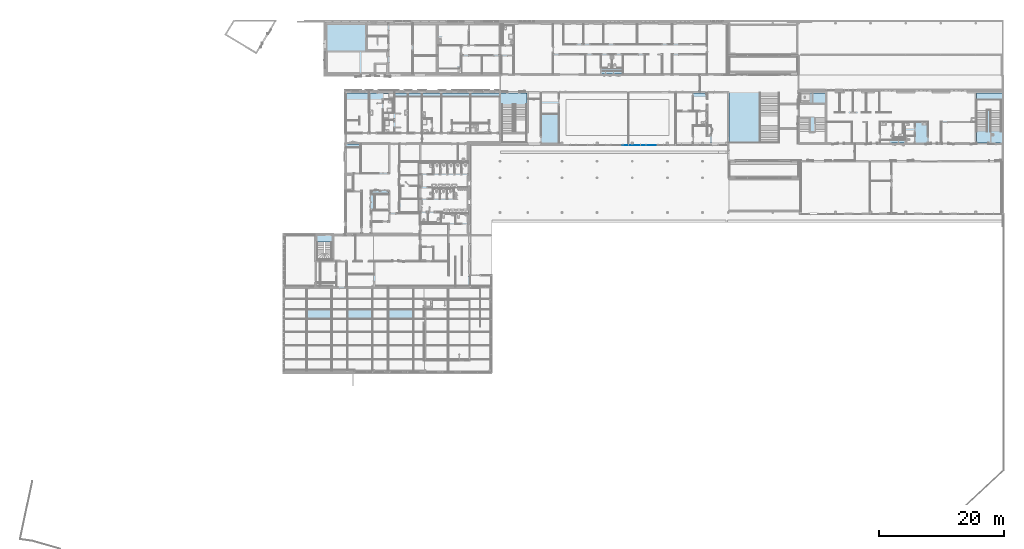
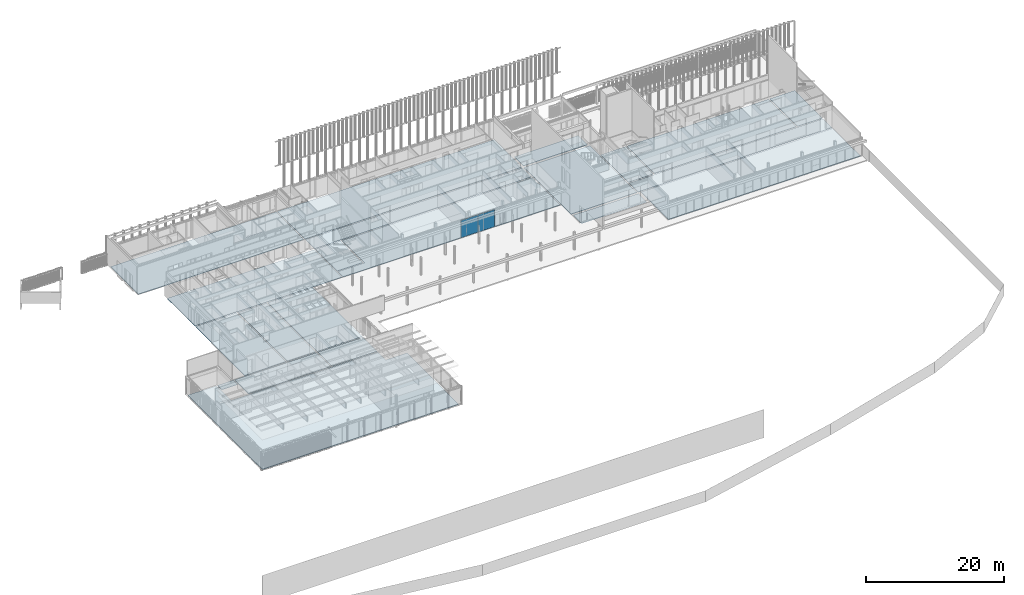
# One storey, part 65 of 240: 2 plates, 1 slab, 1 element without a shape of its own.
"""IFC2X3 building model written with IfcOpenShell, lengths in centimetres."""

import ifcopenshell
import ifcopenshell.guid

model = None  # the IFC model being written
_history = None  # IfcOwnerHistory: only IFC2X3 demands one
_inside = {}  # id of a spatial element -> (the spatial element, [elements in it])
_under = {}  # id of a project, library or spatial element -> (it, [spatial elements below it])
_declared = {}  # id of a project -> (the project, [libraries it declares])
_typed = {}  # id of a type object -> (the type object, [elements of that type])
_made_of = {}  # id of a material, layer set ... -> (it, [elements and type objects made of it])


def new_model(schema):
    """Start an empty IFC model of exactly this schema.

    Asked for "IFC4X3", IfcOpenShell would pick the latest addendum, in which some entities
    have other attributes; the version numbers below select the first issue.
    IFC2X3 requires an IfcOwnerHistory on every rooted entity: one is made here for all.
    """
    global model, _history
    if schema == "IFC4X3":
        model = ifcopenshell.file(schema_version=(4, 3, 0, 0))
    else:
        model = ifcopenshell.file(schema=schema)
    _inside.clear()
    _under.clear()
    _declared.clear()
    _typed.clear()
    _made_of.clear()
    _history = None
    if model.schema == "IFC2X3":
        org = make("IfcOrganization", Name="unknown")
        user = make(
            "IfcPersonAndOrganization",
            ThePerson=make("IfcPerson", FamilyName="unknown"),
            TheOrganization=org,
        )
        app = make(
            "IfcApplication",
            ApplicationDeveloper=org,
            Version="unknown",
            ApplicationFullName="unknown",
            ApplicationIdentifier="unknown",
        )
        _history = make(
            "IfcOwnerHistory",
            OwningUser=user,
            OwningApplication=app,
            ChangeAction="ADDED",
            CreationDate=0,
        )
    return model


def make(cls, **values):
    """One entity of the class cls with the attributes given. An attribute that is None is left unset."""
    return model.create_entity(
        cls, **{name: value for name, value in values.items() if value is not None}
    )


def entity(cls, *values):
    """Any entity or typed value of the class cls, its attributes in the order of the schema. None: left unset."""
    e = model.create_entity(cls)
    for i, value in enumerate(values):
        if value is not None:
            e[i] = value
    return e


def rooted(cls, **values):
    """An entity with a GlobalId (a new one), such as an element, a storey or a relation."""
    return make(cls, GlobalId=ifcopenshell.guid.new(), OwnerHistory=_history, **values)


def si_unit(unit_type, name, prefix=None):
    """IfcSIUnit, for example si_unit("LENGTHUNIT", "METRE", prefix="MILLI")."""
    return make("IfcSIUnit", UnitType=unit_type, Prefix=prefix, Name=name)


def converted_unit(unit_type, name, factor, base, dimensions=None, offset=None):
    """IfcConversionBasedUnit, such as the inch: factor (a typed value) times the base unit."""
    return make(
        "IfcConversionBasedUnit"
        if offset is None
        else "IfcConversionBasedUnitWithOffset",
        ConversionOffset=offset,
        Dimensions=None
        if dimensions is None
        else entity("IfcDimensionalExponents", *dimensions),
        UnitType=unit_type,
        Name=name,
        ConversionFactor=make(
            "IfcMeasureWithUnit", ValueComponent=factor, UnitComponent=base
        ),
    )


def derived_unit(unit_type, elements):
    """IfcDerivedUnit: a product of units, each with its exponent."""
    return make(
        "IfcDerivedUnit",
        Elements=[
            make("IfcDerivedUnitElement", Unit=unit, Exponent=power)
            for unit, power in elements
        ],
        UnitType=unit_type,
    )


def assignment(units):
    """IfcUnitAssignment: the units of a project."""
    return None if units is None else make("IfcUnitAssignment", Units=units)


def point(xyz):
    """IfcCartesianPoint."""
    return None if xyz is None else make("IfcCartesianPoint", Coordinates=xyz)


def direction(xyz):
    """IfcDirection."""
    return None if xyz is None else make("IfcDirection", DirectionRatios=xyz)


def frame(location, z_axis=None, x_axis=None):
    """IfcAxis2Placement3D, a coordinate frame: its origin and axes. An axis left out is left unset."""
    return make(
        "IfcAxis2Placement3D",
        Location=point(location),
        Axis=direction(z_axis),
        RefDirection=direction(x_axis),
    )


def frame_2d(location, x_axis=None):
    """IfcAxis2Placement2D, a coordinate frame in the plane: its origin and x axis."""
    return make(
        "IfcAxis2Placement2D", Location=point(location), RefDirection=direction(x_axis)
    )


def origin():
    """The frame at (0, 0, 0) with its axes left unset."""
    return frame((0.0, 0.0, 0.0))


def origin_2d_with_axis():
    """The frame at (0, 0) in the plane with the x axis (1, 0) written out."""
    return frame_2d((0.0, 0.0), x_axis=(1.0, 0.0))


def place(relative_to, where):
    """IfcLocalPlacement: puts the frame where relative to a parent placement (None: the world)."""
    return make(
        "IfcLocalPlacement", PlacementRelTo=relative_to, RelativePlacement=where
    )


def context(
    kind, dimensions, precision=None, world=None, true_north=None, identifier=None
):
    """IfcGeometricRepresentationContext, for example the 3D "Model" context."""
    return make(
        "IfcGeometricRepresentationContext",
        ContextIdentifier=identifier,
        ContextType=kind,
        CoordinateSpaceDimension=dimensions,
        Precision=precision,
        WorldCoordinateSystem=world,
        TrueNorth=true_north,
    )


def subcontext(parent, identifier, kind, view, scale=None):
    """IfcGeometricRepresentationSubContext, for example "Body" below "Model"."""
    return make(
        "IfcGeometricRepresentationSubContext",
        ContextIdentifier=identifier,
        ContextType=kind,
        ParentContext=parent,
        TargetScale=scale,
        TargetView=view,
    )


def project(units=None, contexts=None):
    """IfcProject with its units and contexts."""
    return rooted(
        "IfcProject",
        Name="project",
        RepresentationContexts=contexts,
        UnitsInContext=assignment(units),
    )


def spatial(cls, under=None, at=None, **own):
    """A site, building, storey or space (cls), placed at a placement, below another one or the project."""
    s = rooted(cls, ObjectPlacement=at, **own)
    if under is not None:
        _under.setdefault(under.id(), (under, []))[1].append(s)
    return s


def polyline(points):
    """IfcPolyline through the points."""
    return make("IfcPolyline", Points=[point(p) for p in points])


def profile(cls, at=None, kind="AREA", **sizes):
    """A parametric profile (cls). Its sizes go by their IFC names, for example OverallWidth=200.0."""
    return make(cls, ProfileType=kind, Position=at, **sizes)


def rectangle(**sizes):
    """IfcRectangleProfileDef."""
    return profile("IfcRectangleProfileDef", **sizes)


def outline(outer, holes=None, kind="AREA"):
    """IfcArbitraryClosedProfileDef: a profile drawn as a closed curve; with holes, ...WithVoids."""
    if holes is None:
        return make("IfcArbitraryClosedProfileDef", ProfileType=kind, OuterCurve=outer)
    return make(
        "IfcArbitraryProfileDefWithVoids",
        ProfileType=kind,
        OuterCurve=outer,
        InnerCurves=holes,
    )


def extrude(swept, where, along, depth):
    """IfcExtrudedAreaSolid: the profile swept, set in the frame where, extruded along a direction by depth."""
    return make(
        "IfcExtrudedAreaSolid",
        SweptArea=swept,
        Position=where,
        ExtrudedDirection=direction(along),
        Depth=depth,
    )


def faces_of(points, faces, orient=None, outer=None):
    """IfcFace entities. A face is a list of loops; a loop is a list of indices into points, from 0.

    orient and outer hold one flag for each loop. By default every Orientation is true, the
    first loop of a face is its IfcFaceOuterBound and the others are IfcFaceBound.
    """
    made = []
    for i, loops in enumerate(faces):
        bounds = []
        for j, loop in enumerate(loops):
            is_outer = j == 0 if outer is None else outer[i][j]
            bounds.append(
                make(
                    "IfcFaceOuterBound" if is_outer else "IfcFaceBound",
                    Bound=make("IfcPolyLoop", Polygon=[points[k] for k in loop]),
                    Orientation=True if orient is None else orient[i][j],
                )
            )
        made.append(make("IfcFace", Bounds=bounds))
    return made


def faceted_brep(points, faces, orient=None, outer=None, voids=None):
    """IfcFacetedBrep: a solid bounded by flat faces; with voids (closed shells), ...WithVoids."""
    shared = [point(p) for p in points]
    hull = make("IfcClosedShell", CfsFaces=faces_of(shared, faces, orient, outer))
    if voids is None:
        return make("IfcFacetedBrep", Outer=hull)
    return make(
        "IfcFacetedBrepWithVoids",
        Outer=hull,
        Voids=[
            make(cls, CfsFaces=faces_of(shared, fs, o, b)) for cls, fs, o, b in voids
        ],
    )


def shape(context_of_items, identifier, shape_type, items):
    """IfcShapeRepresentation: the items that make up one representation, for example the "Body"."""
    return make(
        "IfcShapeRepresentation",
        ContextOfItems=context_of_items,
        RepresentationIdentifier=identifier,
        RepresentationType=shape_type,
        Items=items,
    )


def source(mapping_origin, context_of_items, identifier, shape_type, items):
    """IfcRepresentationMap: a shape defined once, which mapped items show again and again."""
    return make(
        "IfcRepresentationMap",
        MappingOrigin=mapping_origin,
        MappedRepresentation=shape(context_of_items, identifier, shape_type, items),
    )


def transform(
    local_origin,
    x_axis=None,
    y_axis=None,
    z_axis=None,
    scale=None,
    scale2=None,
    scale3=None,
    uniform=True,
):
    """IfcCartesianTransformationOperator3D, or its non-uniform kind. x_axis, y_axis, z_axis: its Axis1, 2, 3."""
    if uniform:
        return make(
            "IfcCartesianTransformationOperator3D",
            Axis1=direction(x_axis),
            Axis2=direction(y_axis),
            LocalOrigin=point(local_origin),
            Scale=scale,
            Axis3=direction(z_axis),
        )
    return make(
        "IfcCartesianTransformationOperator3DnonUniform",
        Axis1=direction(x_axis),
        Axis2=direction(y_axis),
        LocalOrigin=point(local_origin),
        Scale=scale,
        Axis3=direction(z_axis),
        Scale2=scale2,
        Scale3=scale3,
    )


def mapped(mapping_source, mapping_target):
    """IfcMappedItem: shows the shape of a source again, moved by a transform."""
    return make(
        "IfcMappedItem", MappingSource=mapping_source, MappingTarget=mapping_target
    )


def material(Name=None, Category=None):
    """IfcMaterial."""
    return make("IfcMaterial", Name=Name, Category=Category)


def layer(
    of_material, thickness, ventilated=None, Name=None, Category=None, Priority=None
):
    """IfcMaterialLayer: one layer of a wall or slab, of a material (None: an air gap)."""
    return make(
        "IfcMaterialLayer",
        Material=of_material,
        LayerThickness=thickness,
        IsVentilated=ventilated,
        Name=Name,
        Category=Category,
        Priority=Priority,
    )


def layer_set(layers, Name=None):
    """IfcMaterialLayerSet."""
    return make("IfcMaterialLayerSet", MaterialLayers=layers, LayerSetName=Name)


def layer_usage(for_layer_set, set_direction, sense, offset, extent=None):
    """IfcMaterialLayerSetUsage: how a layer set lies in its element."""
    return make(
        "IfcMaterialLayerSetUsage",
        ForLayerSet=for_layer_set,
        LayerSetDirection=set_direction,
        DirectionSense=sense,
        OffsetFromReferenceLine=offset,
        ReferenceExtent=extent,
    )


def made_of(thing, what):
    """Note that an element or type object is made of a material, layer set ...; save() writes the relation."""
    if what is not None:
        _made_of.setdefault(what.id(), (what, []))[1].append(thing)
    return thing


def type_object(cls, material=None, **own):
    """A type object (cls), such as IfcWallType, which elements share."""
    return made_of(rooted(cls, **own), material)


def type_shapes(of_type, sources):
    """Give a type object the sources (RepresentationMaps) that its elements show as mapped items."""
    of_type.RepresentationMaps = sources


def element(
    cls,
    number,
    at=None,
    inside=None,
    cuts=None,
    type_object=None,
    material=None,
    context=None,
    identifier="Body",
    shape_type=None,
    held_by="IfcProductDefinitionShape",
    body=None,
    shapes=None,
    **own,
):
    """One element of the class cls, such as IfcWall. Its Tag is "e" and its number.

    at: its placement. inside: the storey or other place that contains it. cuts: it is an
    opening in that element (IfcRelVoidsElement). A single representation is given by context,
    identifier, shape_type and body (its items); several are given by shapes. held_by: the class
    of the entity that holds the representations. save() writes the other relations.
    """
    e = rooted(cls, Tag="e%d" % number, ObjectPlacement=at, **own)
    if body is not None:
        shapes = [shape(context, identifier, shape_type, body)]
    if shapes is not None:
        e.Representation = make(held_by, Representations=shapes)
    if inside is not None:
        _inside.setdefault(inside.id(), (inside, []))[1].append(e)
    if cuts is not None:
        rooted(
            "IfcRelVoidsElement", RelatingBuildingElement=cuts, RelatedOpeningElement=e
        )
    if type_object is not None:
        _typed.setdefault(type_object.id(), (type_object, []))[1].append(e)
    return made_of(e, material)


def aggregate(whole, parts):
    """IfcRelAggregates: a whole, such as a stair, and the parts it consists of."""
    return rooted("IfcRelAggregates", RelatingObject=whole, RelatedObjects=parts)


def save(model, path):
    """Write the relations noted so far, then the file.

    IfcRelAggregates (storeys below a building ...), IfcRelContainedInSpatialStructure (elements
    in a storey), IfcRelDefinesByType, IfcRelAssociatesMaterial and IfcRelDeclares: one each for
    every whole, place, type object, material and project.
    """
    for whole, parts in _under.values():
        aggregate(whole, parts)
    for where, things in _inside.values():
        rooted(
            "IfcRelContainedInSpatialStructure",
            RelatedElements=things,
            RelatingStructure=where,
        )
    for kind, things in _typed.values():
        rooted("IfcRelDefinesByType", RelatedObjects=things, RelatingType=kind)
    for what, things in _made_of.values():
        rooted("IfcRelAssociatesMaterial", RelatedObjects=things, RelatingMaterial=what)
    for by, libraries in _declared.values():
        rooted("IfcRelDeclares", RelatingContext=by, RelatedDefinitions=libraries)
    model.write(path)


model = new_model("IFC2X3")

# Units and contexts
model_context = context("Model", 3, precision=0.001, world=origin(), true_north=direction((6.12303176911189e-17, 1.0)))
body_context = subcontext(model_context, "Body", "Model", "MODEL_VIEW")
ifc_project = project(units=[si_unit("LENGTHUNIT", "METRE", prefix="CENTI"), si_unit("AREAUNIT", "SQUARE_METRE"), si_unit("VOLUMEUNIT", "CUBIC_METRE"), converted_unit("PLANEANGLEUNIT", "DEGREE", entity("IfcRatioMeasure", 0.0174532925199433), si_unit("PLANEANGLEUNIT", "RADIAN"), dimensions=[0, 0, 0, 0, 0, 0, 0]), si_unit("MASSUNIT", "GRAM", prefix="KILO"), derived_unit("MASSDENSITYUNIT", [(si_unit("MASSUNIT", "GRAM", prefix="KILO"), 1), (si_unit("LENGTHUNIT", "METRE"), -3)]), si_unit("TIMEUNIT", "SECOND"), si_unit("FREQUENCYUNIT", "HERTZ"), si_unit("THERMODYNAMICTEMPERATUREUNIT", "DEGREE_CELSIUS"), derived_unit("THERMALTRANSMITTANCEUNIT", [(si_unit("MASSUNIT", "GRAM", prefix="KILO"), 1), (si_unit("THERMODYNAMICTEMPERATUREUNIT", "KELVIN"), -1), (si_unit("TIMEUNIT", "SECOND"), -3)]), derived_unit("VOLUMETRICFLOWRATEUNIT", [(si_unit("LENGTHUNIT", "METRE"), 3), (si_unit("TIMEUNIT", "SECOND"), -1)]), si_unit("ELECTRICCURRENTUNIT", "AMPERE"), si_unit("ELECTRICVOLTAGEUNIT", "VOLT"), si_unit("POWERUNIT", "WATT"), si_unit("FORCEUNIT", "NEWTON", prefix="KILO"), si_unit("ILLUMINANCEUNIT", "LUX"), si_unit("LUMINOUSFLUXUNIT", "LUMEN"), si_unit("LUMINOUSINTENSITYUNIT", "CANDELA"), derived_unit("USERDEFINED", [(si_unit("MASSUNIT", "GRAM", prefix="KILO"), -1), (si_unit("LENGTHUNIT", "METRE"), -2), (si_unit("TIMEUNIT", "SECOND"), 3), (si_unit("LUMINOUSFLUXUNIT", "LUMEN"), 1)]), derived_unit("LINEARVELOCITYUNIT", [(si_unit("LENGTHUNIT", "METRE"), 1), (si_unit("TIMEUNIT", "SECOND"), -1)]), si_unit("PRESSUREUNIT", "PASCAL"), derived_unit("USERDEFINED", [(si_unit("LENGTHUNIT", "METRE"), -2), (si_unit("MASSUNIT", "GRAM", prefix="KILO"), 1), (si_unit("TIMEUNIT", "SECOND"), -2)])], contexts=[model_context])

# Site, building, storey
site_placement = place(None, frame((-2781.94577612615, 7442.24238424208, 0.0)))
site = spatial("IfcSite", under=ifc_project, at=site_placement, Name="Default", CompositionType="ELEMENT")
building_placement = place(site_placement, origin())
building = spatial("IfcBuilding", under=site, at=building_placement, CompositionType="ELEMENT")
storey_placement = place(building_placement, origin())
storey = spatial("IfcBuildingStorey", under=building, at=storey_placement, Name="N00 - COO", CompositionType="ELEMENT", Elevation=0.0)

# Slab
ifc_material_1 = material(Name="00 - Isolant")
ifc_layer_1 = layer(ifc_material_1, 9.0)
ifc_layer_set_1 = layer_set([ifc_layer_1], Name="Sol:SR- 02 - Isolation sur terre plein sous chape - 9cm")
ifc_layer_usage = layer_usage(ifc_layer_set_1, "AXIS3", "POSITIVE", 0.0)
slab_type = type_object("IfcSlabType", Name="Sol:SR- 02 - Isolation sur terre plein sous chape - 9cm", PredefinedType="FLOOR", material=ifc_layer_set_1)
slab_placement = place(building_placement, origin())
element("IfcSlab", 1, at=slab_placement, inside=storey, type_object=slab_type, material=ifc_layer_usage, Name="Sol:SR- 02 - Isolation sur terre plein sous chape - 9cm", ObjectType="Sol:SR- 02 - Isolation sur terre plein sous chape - 9cm", PredefinedType="FLOOR", context=body_context, shape_type="SweptSolid", body=[
    extrude(rectangle(XDim=262.499999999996, YDim=1066.69999791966, at=frame_2d((0.0, -1.70530256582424e-13), x_axis=(1.0, 0.0))), frame((-4216.64987864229, -658.79850098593, -35.0), z_axis=(0.0, 0.0, 1.0), x_axis=(0.0, 1.0, 0.0)), (0.0, 0.0, 1.0), 9.0),
    extrude(outline(polyline([(-1456.69153090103, 514.843664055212), (-1456.69153090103, -976.579036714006), (-420.691530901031, -976.579036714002), (-400.69153090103, -976.579036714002), (-382.691530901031, -976.579036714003), (1820.67166282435, -976.579036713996), (1820.67166282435, 1177.40089118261), (1341.80389617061, 1177.40089118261), (1341.80389617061, 749.203036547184), (-1103.74673174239, 749.203036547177), (-1103.74673174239, 514.843664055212), (-1456.69153090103, 514.843664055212)])), frame((-10025.6789117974, -4549.9226976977, -35.0), z_axis=(0.0, 0.0, -1.0), x_axis=(-1.0, 0.0, 0.0)), (0.0, 0.0, -1.0), 9.0),
    extrude(rectangle(XDim=800.079033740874, YDim=415.3, at=frame_2d((-1.13686837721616e-13, 63.2166666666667), x_axis=(1.0, 0.0))), frame((-554.433216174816, -1510.03951677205, -35.0), z_axis=(0.0, 0.0, 1.0), x_axis=(0.0, 1.0, 0.0)), (0.0, 0.0, 1.0), 9.0),
    extrude(rectangle(XDim=800.156932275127, YDim=3201.49999684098, at=frame_2d((6.25277607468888e-13, 527.583332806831), x_axis=(1.0, 0.0))), frame((-1483.16654845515, -2610.23503345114, -35.0), z_axis=(0.0, 0.0, 1.0), x_axis=(0.0, 1.0, 0.0)), (0.0, 0.0, 1.0), 9.0),
    extrude(rectangle(XDim=1099.99999791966, YDim=1358.10806632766, at=frame_2d((59.1111109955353, -73.8948925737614), x_axis=(1.0, 0.0))), frame((-4277.11098963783, -1437.20764157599, -35.0)), (0.0, 0.0, 1.0), 9.0),
    extrude(outline(polyline([(-1354.8333333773, -316.693011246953), (2266.66666668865, -316.693011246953), (2266.66666668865, 483.386022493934), (-911.833333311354, 483.386022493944), (-911.833333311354, -166.693011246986), (-1354.8333333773, -166.693011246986), (-1354.8333333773, -316.693011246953)])), frame((-7054.66654429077, -1593.38602239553, -35.0)), (0.0, 0.0, 1.0), 9.0),
    extrude(rectangle(XDim=1422.44277287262, YDim=755.067816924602, at=origin_2d_with_axis()), frame((-9299.4660885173, -2641.30042007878, -35.0), z_axis=(0.0, 0.0, 1.0), x_axis=(0.0, 1.0, 0.0)), (0.0, 0.0, 1.0), 9.0),
    extrude(rectangle(XDim=1422.44277287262, YDim=686.778497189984, at=frame_2d((141.982277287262, 68.6778497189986), x_axis=(1.0, 0.0))), frame((-10606.9016487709, -2499.31814279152, -35.0), z_axis=(0.0, 0.0, 1.0), x_axis=(0.0, -1.0, 0.0)), (0.0, 0.0, 1.0), 9.0),
    extrude(rectangle(XDim=2452.11316997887, YDim=800.079033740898, at=frame_2d((-245.211316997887, -76.4079033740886), x_axis=(1.0, 0.0))), frame((-9900.76777965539, -1586.44742014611, -35.0), z_axis=(0.0, 0.0, 1.0), x_axis=(-1.0, 0.0, 0.0)), (0.0, 0.0, 1.0), 9.0),
    extrude(rectangle(XDim=2761.16181917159, YDim=800.048500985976, at=frame_2d((-200.290454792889, 1.13686837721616e-13), x_axis=(1.0, 0.0))), frame((-9609.79033246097, -410.024250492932, -35.0)), (0.0, 0.0, 1.0), 9.0),
    extrude(rectangle(XDim=418.406204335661, YDim=800.079033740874, at=frame_2d((-4.40536496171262e-13, 0.0), x_axis=(1.0, 0.0))), frame((-3438.79677751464, -1510.03951677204, -35.0), z_axis=(0.0, 0.0, 1.0), x_axis=(-1.0, 0.0, 0.0)), (0.0, 0.0, 1.0), 9.0),
    extrude(rectangle(XDim=1369.8828109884, YDim=408.19785463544, at=frame_2d((0.0, -4.33431068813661e-12), x_axis=(1.0, 0.0))), frame((-10381.9414024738, -3576.62073383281, -35.0)), (0.0, 0.0, 1.0), 9.0),
    extrude(rectangle(XDim=800.079033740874, YDim=2364.29379250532, at=frame_2d((-1.98951966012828e-13, -4.54747350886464e-13), x_axis=(1.0, 0.0))), frame((-2027.44677909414, -1510.03951677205, -35.0), z_axis=(0.0, 0.0, 1.0), x_axis=(0.0, 1.0, 0.0)), (0.0, 0.0, 1.0), 9.0),
    extrude(rectangle(XDim=3237.99999684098, YDim=260.077533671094, at=frame_2d((-1.06249999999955, -30.2596917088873), x_axis=(1.0, 0.0))), frame((-2030.06238126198, -2090.37749218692, -35.0), z_axis=(0.0, 0.0, 1.0), x_axis=(-1.0, 0.0, 0.0)), (0.0, 0.0, 1.0), 9.0),
    extrude(rectangle(XDim=3621.50000006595, YDim=259.951498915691, at=frame_2d((344.437499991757, -60.4878747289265), x_axis=(1.0, 0.0))), frame((-6943.18737762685, -899.536375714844, -35.0)), (0.0, 0.0, 1.0), 9.0),
    extrude(rectangle(XDim=800.048500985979, YDim=3621.50000006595, at=frame_2d((0.0, -4.54747350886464e-13), x_axis=(1.0, 0.0))), frame((-6598.7498776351, -410.024250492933, -35.0), z_axis=(0.0, 0.0, 1.0), x_axis=(0.0, 1.0, 0.0)), (0.0, 0.0, 1.0), 9.0),
    extrude(rectangle(XDim=630.079033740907, YDim=423.000000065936, at=origin_2d_with_axis()), frame((-8197.9998776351, -1425.03951677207, -35.0), z_axis=(0.0, 0.0, 1.0), x_axis=(0.0, 1.0, 0.0)), (0.0, 0.0, 1.0), 9.0),
    extrude(rectangle(XDim=1422.44277287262, YDim=477.834553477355, at=frame_2d((-3.41060513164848e-13, 8.66862137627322e-13), x_axis=(1.0, 0.0))), frame((-9935.91727371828, -2641.30042007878, -35.0), z_axis=(0.0, 0.0, 1.0), x_axis=(0.0, -1.0, 0.0)), (0.0, 0.0, 1.0), 9.0),
    extrude(rectangle(XDim=408.197854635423, YDim=755.067816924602, at=frame_2d((0.0, -8.5265128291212e-13), x_axis=(1.0, 0.0))), frame((-9299.4660885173, -3576.62073383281, -35.0), z_axis=(0.0, 0.0, 1.0), x_axis=(0.0, -1.0, 0.0)), (0.0, 0.0, 1.0), 9.0),
    extrude(rectangle(XDim=119.897854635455, YDim=260.599999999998, at=frame_2d((6.50146603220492e-13, 8.66862137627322e-13), x_axis=(1.0, 0.0))), frame((-11217.182807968, -3432.47073383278, -35.0), z_axis=(0.0, 0.0, 1.0), x_axis=(0.0, -1.0, 0.0)), (0.0, 0.0, 1.0), 9.0),
    extrude(rectangle(XDim=1087.89999791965, YDim=234.999999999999, at=frame_2d((-2.27373675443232e-13, 0.0), x_axis=(1.0, 0.0))), frame((-4208.7498786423, -2347.65656731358, -35.0), z_axis=(0.0, 0.0, 1.0), x_axis=(-1.0, 0.0, 0.0)), (0.0, 0.0, 1.0), 9.0),
])

# Curtain wall, plates
curtain_wall_type = type_object("IfcCurtainWallType", Name="Mur-rideau:07 - mur rideau trame 280 cm", PredefinedType="NOTDEFINED")
curtain_wall_placement = place(building_placement, origin())
curtain_wall = element("IfcCurtainWall", 2, at=curtain_wall_placement, inside=storey, type_object=curtain_wall_type, Name="Mur-rideau:07 - mur rideau trame 280 cm", ObjectType="Mur-rideau:07 - mur rideau trame 280 cm")
ifc_material_2 = material(Name="Verre")
ifc_layer_2 = layer(ifc_material_2, 4.0)
ifc_layer_set_2 = layer_set([ifc_layer_2], Name="Panneau système:Vitré")
plate_type = type_object("IfcPlateType", Name="Vitré", PredefinedType="CURTAIN_PANEL", material=ifc_layer_set_2)
shared_shape = source(origin(), body_context, "Body", "Brep", [
    faceted_brep([(-138.2625, -2.0, 1.73749999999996), (140.0, -2.0, 1.73749999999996), (140.0, -2.0, 304.5), (-138.2625, -2.0, 304.5), (-138.2625, 2.0, 1.73749999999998), (-138.2625, 2.0, 304.5), (140.0, 2.0, 304.5), (140.0, 2.0, 1.73749999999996), (-48.2624999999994, 2.0, 0.0), (-48.2624999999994, 2.0, 307.7375), (-140.0, 2.0, 307.7375), (-140.0, 2.0, 0.0), (-140.0, -2.0, 0.0), (-48.2624999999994, -2.0, 0.0), (-140.0, -2.0, 307.7375), (-48.2624999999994, -2.0, 307.7375)], [[[0, 1, 2, 3]], [[4, 5, 6, 7], [8, 9, 10, 11]], [[1, 0, 4, 7]], [[2, 1, 7, 6]], [[3, 2, 6, 5]], [[0, 3, 5, 4]], [[12, 13, 8, 11]], [[14, 12, 11, 10]], [[15, 14, 10, 9]], [[13, 15, 9, 8]], [[13, 12, 14, 15]]]),
])
type_shapes(plate_type, [shared_shape])
plate_1_placement = place(curtain_wall_placement, frame((-6320.36862760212, -1946.27903364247, 2.38125000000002)))
plate_1 = element("IfcPlate", 3, at=plate_1_placement, type_object=plate_type, material=ifc_material_2, Name="Panneau système:Vitré", ObjectType="Panneau système:Vitré", context=body_context, shape_type="MappedRepresentation", body=[
    mapped(shared_shape, transform((0.0, 0.0, 0.0), scale=1.0)),
])
plate_2_placement = place(curtain_wall_placement, frame((-6040.36862760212, -1946.27903364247, 2.38125000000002)))
plate_2 = element("IfcPlate", 4, at=plate_2_placement, type_object=plate_type, material=ifc_material_2, Name="Panneau système:Vitré", ObjectType="Panneau système:Vitré", context=body_context, shape_type="MappedRepresentation", body=[
    mapped(shared_shape, transform((0.0, 0.0, 0.0), scale=1.0)),
])
aggregate(curtain_wall, [plate_1, plate_2])

save(model, "model.ifc")
